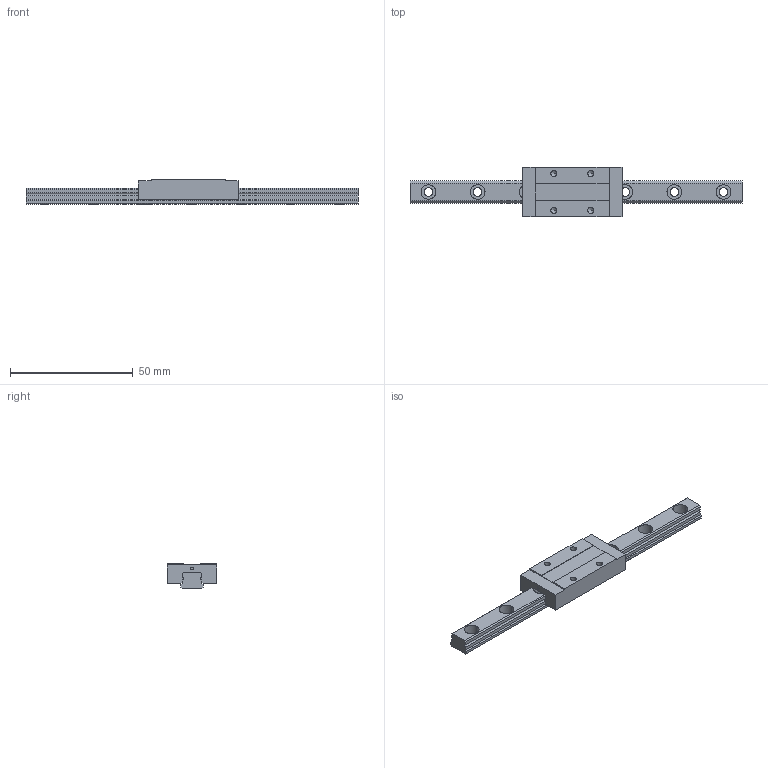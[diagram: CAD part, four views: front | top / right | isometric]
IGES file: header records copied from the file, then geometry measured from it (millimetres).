
Global section: file name: No Iges File Name specified; native system: AutoDesk Inventor R10; preprocessor: AutoDesk Inventor Iges Exporter R10; author: No Author specified; organization: No Organization specified; date: 20101222.162458; units: millimetre
Bounding box: 135 x 20 x 10 mm (x, y, z)
Surface area: 7884 mm2 (no closed solid volume)
Topology: 0 solids, 0 shells, 99 faces, 660 edges, 652 vertices
Faces by surface type: bspline 99
